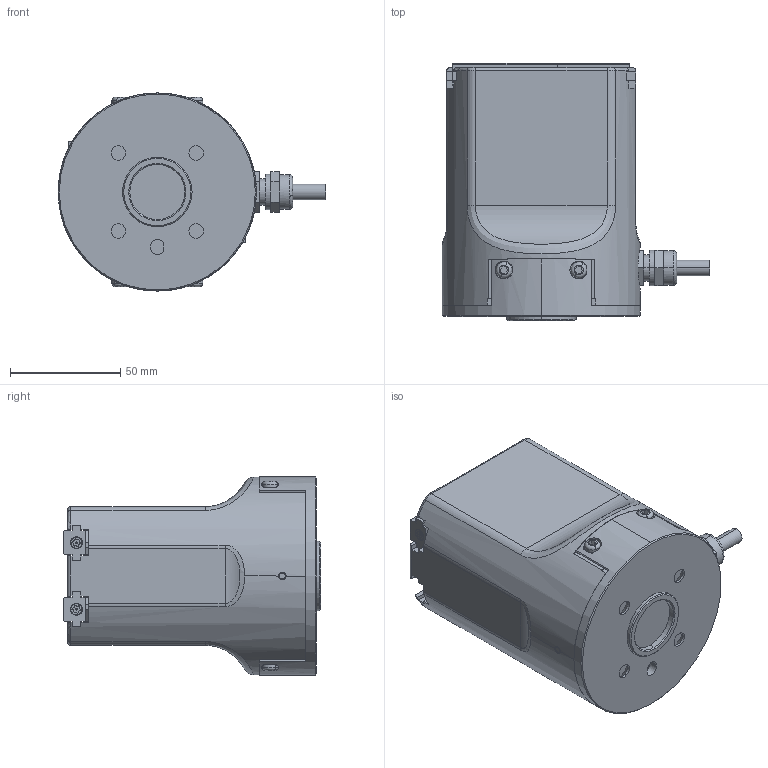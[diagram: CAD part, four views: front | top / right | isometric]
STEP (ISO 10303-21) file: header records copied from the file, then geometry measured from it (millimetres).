
FILE_DESCRIPTION (( 'STEP AP214' ), '1' );
FILE_NAME ('EFG-C65（外发）.STEP', '2023-12-11T03:46:55', ( '' ), ( '' ), 'SwSTEP 2.0', 'SolidWorks 2022', '' );
FILE_SCHEMA (( 'AUTOMOTIVE_DESIGN' ));
Length unit declared in the file: millimetre
Products named in the file (4): EFG-C65ㄗ俋楷ㄘ; EFG-C65ㄗ綴裔ㄘ; EFG-C65ㄗ俋褲ㄘ; EFG-C65ㄗ忒硌ㄘ
Assembly tree (4 placements, depth 2):
  EFG-C65ㄗ俋楷ㄘ
    EFG-C65ㄗ俋褲ㄘ
    EFG-C65ㄗ綴裔ㄘ
    EFG-C65ㄗ忒硌ㄘ  x2
Bounding box: 121.5 x 117 x 90 mm (x, y, z)
Volume: 608895.2 mm3; surface area: 77551.1 mm2
Topology: 14 solids, 16 shells, 566 faces, 1365 edges, 850 vertices
Faces by surface type: plane 242, cylinder 210, cone 90, torus 18, bspline 6
Entity records: 19444 total; most frequent: CARTESIAN_POINT 3958, DIRECTION 2329, ORIENTED_EDGE 2106, EDGE_CURVE 1053, AXIS2_PLACEMENT_3D 865, VERTEX_POINT 675, VECTOR 599, LINE 599
